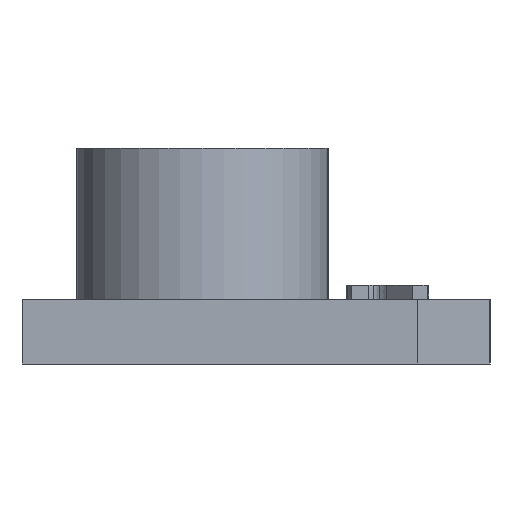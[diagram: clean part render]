
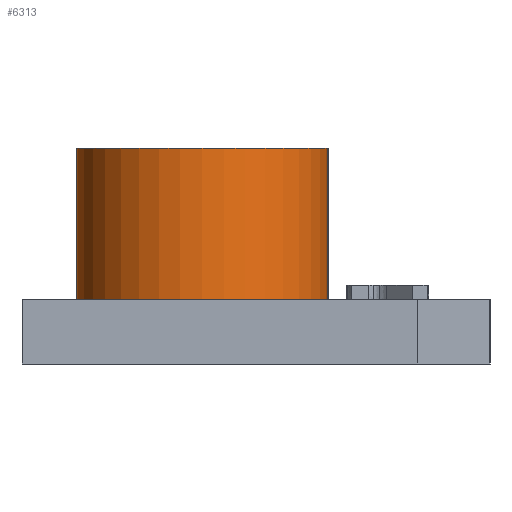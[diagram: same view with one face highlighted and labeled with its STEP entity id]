
A CAD part, left-side view. The second image highlights one B-rep face of the part: STEP entity #6313.
In plain terms, the highlighted cylindrical face has radius 3.5 mm (diameter 7 mm), a full revolution.
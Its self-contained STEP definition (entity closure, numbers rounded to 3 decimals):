
#2029 = EDGE_CURVE('',#2030,#2030,#2032,.T.);
#2030 = VERTEX_POINT('',#2031);
#2031 = CARTESIAN_POINT('',(8.5,8.,1.8));
#2032 = CIRCLE('',#2033,3.5);
#2033 = AXIS2_PLACEMENT_3D('',#2034,#2035,#2036);
#2034 = CARTESIAN_POINT('',(5.,8.,1.8));
#2035 = DIRECTION('',(0.,0.,1.));
#2036 = DIRECTION('',(1.,0.,0.));
#6313 = ADVANCED_FACE('',(#6314),#6333,.T.);
#6314 = FACE_BOUND('',#6315,.T.);
#6315 = EDGE_LOOP('',(#6316,#6325,#6331,#6332));
#6316 = ORIENTED_EDGE('',*,*,#6317,.F.);
#6317 = EDGE_CURVE('',#6318,#6318,#6320,.T.);
#6318 = VERTEX_POINT('',#6319);
#6319 = CARTESIAN_POINT('',(8.5,8.,6.));
#6320 = CIRCLE('',#6321,3.5);
#6321 = AXIS2_PLACEMENT_3D('',#6322,#6323,#6324);
#6322 = CARTESIAN_POINT('',(5.,8.,6.));
#6323 = DIRECTION('',(0.,0.,1.));
#6324 = DIRECTION('',(1.,0.,0.));
#6325 = ORIENTED_EDGE('',*,*,#6326,.F.);
#6326 = EDGE_CURVE('',#2030,#6318,#6327,.T.);
#6327 = LINE('',#6328,#6329);
#6328 = CARTESIAN_POINT('',(8.5,8.,1.8));
#6329 = VECTOR('',#6330,1.);
#6330 = DIRECTION('',(0.,0.,1.));
#6331 = ORIENTED_EDGE('',*,*,#2029,.T.);
#6332 = ORIENTED_EDGE('',*,*,#6326,.T.);
#6333 = CYLINDRICAL_SURFACE('',#6334,3.5);
#6334 = AXIS2_PLACEMENT_3D('',#6335,#6336,#6337);
#6335 = CARTESIAN_POINT('',(5.,8.,1.8));
#6336 = DIRECTION('',(0.,0.,1.));
#6337 = DIRECTION('',(1.,0.,0.));
